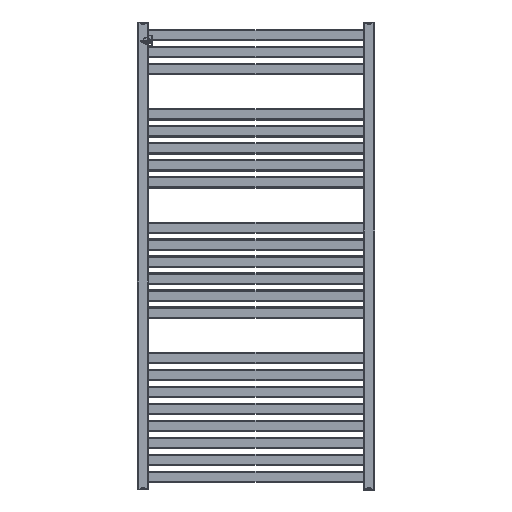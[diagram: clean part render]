
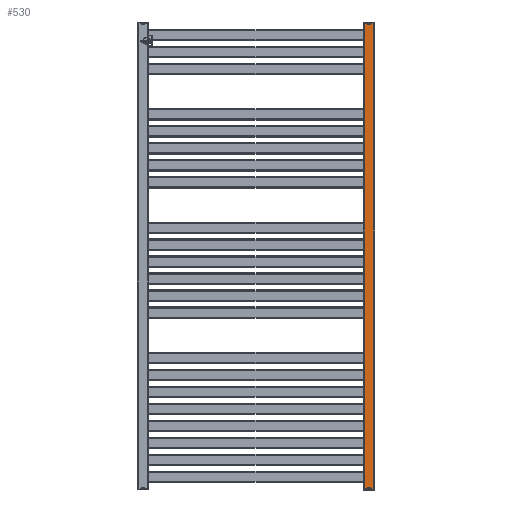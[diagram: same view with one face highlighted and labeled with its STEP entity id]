
A CAD part, front view. The second image highlights one B-rep face of the part: STEP entity #530.
In plain terms, the highlighted planar face has unit normal (0, -1, 0) as drawn and (-1, 0, 0) by its records, which use the part's own axes.
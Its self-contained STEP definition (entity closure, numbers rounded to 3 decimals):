
#530 = ADVANCED_FACE( '', ( #1208 ), #1209, .T. );
#1208 = FACE_OUTER_BOUND( '', #2058, .T. );
#1209 = PLANE( '', #2059 );
#2058 = EDGE_LOOP( '', ( #3665, #3666, #3667, #3668 ) );
#2059 = AXIS2_PLACEMENT_3D( '', #3669, #3670, #3671 );
#3665 = ORIENTED_EDGE( '', *, *, #5440, .T. );
#3666 = ORIENTED_EDGE( '', *, *, #5441, .T. );
#3667 = ORIENTED_EDGE( '', *, *, #5442, .F. );
#3668 = ORIENTED_EDGE( '', *, *, #5443, .T. );
#3669 = CARTESIAN_POINT( '', ( -15., 1236., 15. ) );
#3670 = DIRECTION( '', ( -1., 0., 0. ) );
#3671 = DIRECTION( '', ( 0., 0., 1. ) );
#5440 = EDGE_CURVE( '', #6736, #6737, #6738, .T. );
#5441 = EDGE_CURVE( '', #6737, #6739, #6740, .T. );
#5442 = EDGE_CURVE( '', #6741, #6739, #6742, .T. );
#5443 = EDGE_CURVE( '', #6741, #6736, #6743, .F. );
#6736 = VERTEX_POINT( '', #8416 );
#6737 = VERTEX_POINT( '', #8417 );
#6738 = LINE( '', #8418, #8419 );
#6739 = VERTEX_POINT( '', #8420 );
#6740 = LINE( '', #8421, #8422 );
#6741 = VERTEX_POINT( '', #8423 );
#6742 = LINE( '', #8424, #8425 );
#6743 = LINE( '', #8426, #8427 );
#8416 = CARTESIAN_POINT( '', ( -15., 1236., 12. ) );
#8417 = CARTESIAN_POINT( '', ( -15., 1236., -12. ) );
#8418 = CARTESIAN_POINT( '', ( -15., 1236., 15. ) );
#8419 = VECTOR( '', #9728, 1000. );
#8420 = CARTESIAN_POINT( '', ( -15., 0., -12. ) );
#8421 = CARTESIAN_POINT( '', ( -15., 1236., -12. ) );
#8422 = VECTOR( '', #9729, 1000. );
#8423 = CARTESIAN_POINT( '', ( -15., 0., 12. ) );
#8424 = CARTESIAN_POINT( '', ( -15., 0., 15. ) );
#8425 = VECTOR( '', #9730, 1000. );
#8426 = CARTESIAN_POINT( '', ( -15., 1236., 12. ) );
#8427 = VECTOR( '', #9731, 1000. );
#9728 = DIRECTION( '', ( 0., 0., -1. ) );
#9729 = DIRECTION( '', ( 0., -1., 0. ) );
#9730 = DIRECTION( '', ( 0., 0., -1. ) );
#9731 = DIRECTION( '', ( 0., -1., 0. ) );
